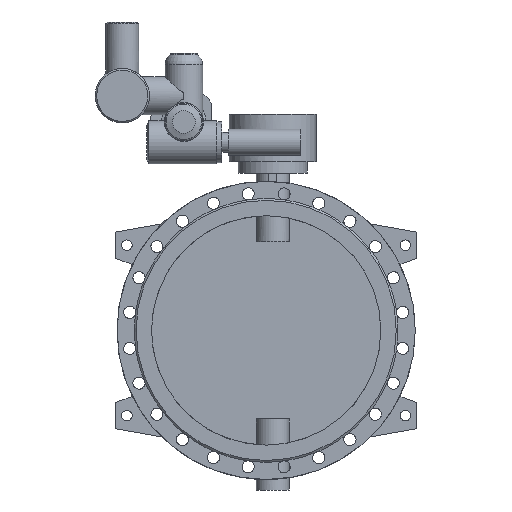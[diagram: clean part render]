
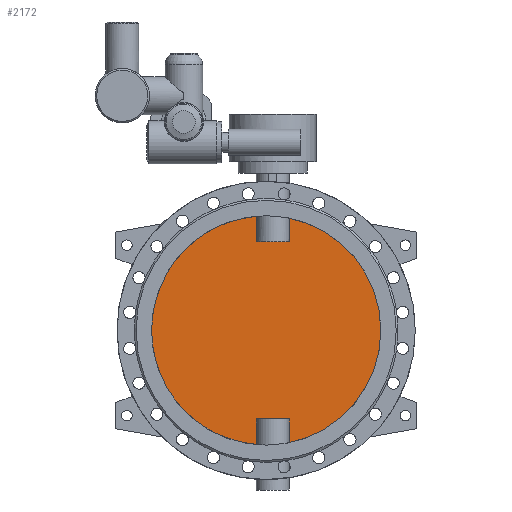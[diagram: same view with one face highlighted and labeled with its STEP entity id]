
A CAD part, front view. The second image highlights one B-rep face of the part: STEP entity #2172.
In plain terms, the highlighted planar face has unit normal (0, -1, 0).
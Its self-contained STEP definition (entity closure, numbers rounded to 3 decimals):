
#2172=ADVANCED_FACE('',(#4295),#4297,.F.);
#4295=FACE_BOUND('',#4296,.T.);
#4296=EDGE_LOOP('',(#5559,#5560,#5561,#5562,#5563,#5564,#5565,#5566));
#4297=PLANE('',#4298);
#4298=AXIS2_PLACEMENT_3D('',#4299,#4300,#4301);
#4299=CARTESIAN_POINT('',(0.,-5.,0.));
#4300=DIRECTION('',(0.,1.,0.));
#4301=DIRECTION('',(1.,0.,0.));
#5559=ORIENTED_EDGE('',*,*,#6192,.T.);
#5560=ORIENTED_EDGE('',*,*,#6197,.T.);
#5561=ORIENTED_EDGE('',*,*,#6198,.T.);
#5562=ORIENTED_EDGE('',*,*,#6199,.T.);
#5563=ORIENTED_EDGE('',*,*,#6194,.T.);
#5564=ORIENTED_EDGE('',*,*,#6200,.T.);
#5565=ORIENTED_EDGE('',*,*,#6201,.T.);
#5566=ORIENTED_EDGE('',*,*,#6202,.T.);
#6192=EDGE_CURVE('',#7293,#7294,#7295,.F.);
#6194=EDGE_CURVE('',#7298,#7296,#7299,.F.);
#6197=EDGE_CURVE('',#7294,#7303,#7304,.T.);
#6198=EDGE_CURVE('',#7303,#7305,#7306,.F.);
#6199=EDGE_CURVE('',#7305,#7298,#7307,.F.);
#6200=EDGE_CURVE('',#7296,#7308,#7309,.F.);
#6201=EDGE_CURVE('',#7308,#7310,#7311,.F.);
#6202=EDGE_CURVE('',#7310,#7293,#7312,.T.);
#7293=VERTEX_POINT('',#13836);
#7294=VERTEX_POINT('',#13837);
#7295=CIRCLE('',#13838,350.);
#7296=VERTEX_POINT('',#13842);
#7298=VERTEX_POINT('',#13884);
#7299=CIRCLE('',#13885,350.);
#7303=VERTEX_POINT('',#14002);
#7304=LINE('',#14003,#14004);
#7305=VERTEX_POINT('',#14006);
#7306=LINE('',#14007,#14008);
#7307=LINE('',#14010,#14011);
#7308=VERTEX_POINT('',#14013);
#7309=LINE('',#14014,#14015);
#7310=VERTEX_POINT('',#14017);
#7311=LINE('',#14018,#14019);
#7312=LINE('',#14021,#14022);
#13836=CARTESIAN_POINT('',(69.749,-5.,-342.98));
#13837=CARTESIAN_POINT('',(69.749,-5.,342.98));
#13838=AXIS2_PLACEMENT_3D('',#13839,#13840,#13841);
#13839=CARTESIAN_POINT('',(0.,-5.,0.));
#13840=DIRECTION('',(0.,1.,0.));
#13841=DIRECTION('',(0.199,0.,0.98));
#13842=CARTESIAN_POINT('',(-29.749,-5.,-348.733));
#13884=CARTESIAN_POINT('',(-29.749,-5.,348.733));
#13885=AXIS2_PLACEMENT_3D('',#13886,#13887,#13888);
#13886=CARTESIAN_POINT('',(0.,-5.,0.));
#13887=DIRECTION('',(0.,1.,0.));
#13888=DIRECTION('',(-0.085,0.,-0.996));
#14002=CARTESIAN_POINT('',(69.749,-5.,270.));
#14003=CARTESIAN_POINT('',(69.749,-5.,342.98));
#14004=VECTOR('',#14005,1.);
#14005=DIRECTION('',(0.,0.,-1.));
#14006=CARTESIAN_POINT('',(-29.749,-5.,270.));
#14007=CARTESIAN_POINT('',(-29.749,-5.,270.));
#14008=VECTOR('',#14009,1.);
#14009=DIRECTION('',(1.,0.,0.));
#14010=CARTESIAN_POINT('',(-29.749,-5.,348.733));
#14011=VECTOR('',#14012,1.);
#14012=DIRECTION('',(0.,0.,-1.));
#14013=CARTESIAN_POINT('',(-29.749,-5.,-270.));
#14014=CARTESIAN_POINT('',(-29.749,-5.,-270.));
#14015=VECTOR('',#14016,1.);
#14016=DIRECTION('',(0.,0.,-1.));
#14017=CARTESIAN_POINT('',(69.749,-5.,-270.));
#14018=CARTESIAN_POINT('',(69.749,-5.,-270.));
#14019=VECTOR('',#14020,1.);
#14020=DIRECTION('',(-1.,0.,0.));
#14021=CARTESIAN_POINT('',(69.749,-5.,-270.));
#14022=VECTOR('',#14023,1.);
#14023=DIRECTION('',(0.,0.,-1.));
